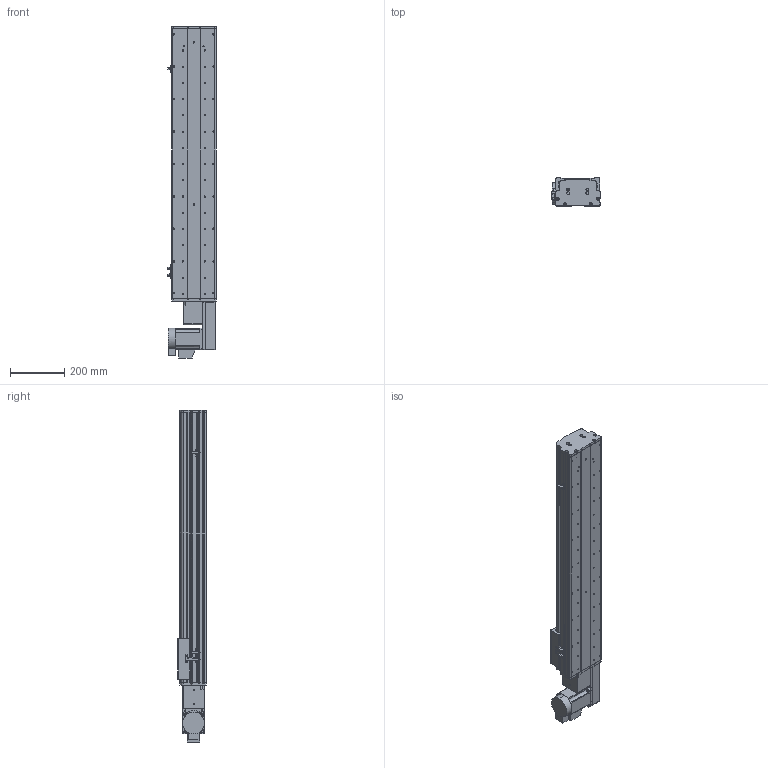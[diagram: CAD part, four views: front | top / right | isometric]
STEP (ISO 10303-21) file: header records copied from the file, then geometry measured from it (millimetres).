
FILE_DESCRIPTION (( 'STEP AP214' ), '1' );
FILE_NAME ('KSD165B-S750-MRB-CM.STEP', '2017-10-16T08:51:10', ( '微软用户' ), ( '微软中国' ), 'SwSTEP 2.0', 'SolidWorks 2014', '' );
FILE_SCHEMA (( 'AUTOMOTIVE_DESIGN' ));
Length unit declared in the file: millimetre
Products named in the file (17): 130宽模组保护罩上下左右折-同步带; KSD165模组-同步带防尘盖1-750行程-最新版; KSD165模组同步带底板-750行程-最新; 拸秶雄ん750W侜督萇儂; 165宽马达安装板同步带右; U倰嫖萇假蚾璃; U倰嫖萇EEㄜSX672; 覜茼え68遵圉猾敕; KSD165模组-同步带-防撞垫2; KSD165模组同步带-防撞垫1; KSD165耀郪-ヶ傷啣1-肮祭湍; KSD165模组-后端板1-同步带; KSD165模组-同步带滑动座-最新版; KSD165B-S750-MRB-CM; HTPA26S5M250-A-H8 750W萇儂蚚; HTPA26S5M250-A-H8 400W萇儂蚚 ; 130宽模组马达安装板连板左右折同步带
Assembly tree (20 placements, depth 2):
  KSD165B-S750-MRB-CM
    KSD165模组-同步带滑动座-最新版
    KSD165模组-后端板1-同步带
    KSD165耀郪-ヶ傷啣1-肮祭湍
    KSD165模组同步带-防撞垫1
    KSD165模组-同步带-防撞垫2
    覜茼え68遵圉猾敕
    U倰嫖萇EEㄜSX672  x3
    U倰嫖萇假蚾璃  x3
    165宽马达安装板同步带右
    拸秶雄ん750W侜督萇儂
    KSD165模组同步带底板-750行程-最新
    KSD165模组-同步带防尘盖1-750行程-最新版
    130宽模组保护罩上下左右折-同步带
    130宽模组马达安装板连板左右折同步带
    HTPA26S5M250-A-H8 400W萇儂蚚 
    HTPA26S5M250-A-H8 750W萇儂蚚
Bounding box: 178.7 x 104 x 1227.5 mm (x, y, z)
Volume: 6787659.2 mm3; surface area: 1575458.1 mm2
Topology: 21 solids, 21 shells, 1939 faces, 5472 edges, 3572 vertices
Faces by surface type: cylinder 1243, plane 584, cone 112
Entity records: 62772 total; most frequent: CARTESIAN_POINT 12868, DIRECTION 10332, ORIENTED_EDGE 9604, EDGE_CURVE 4802, AXIS2_PLACEMENT_3D 4050, VERTEX_POINT 3164, CIRCLE 2308, LINE 2232
